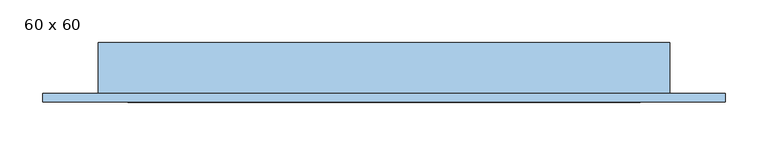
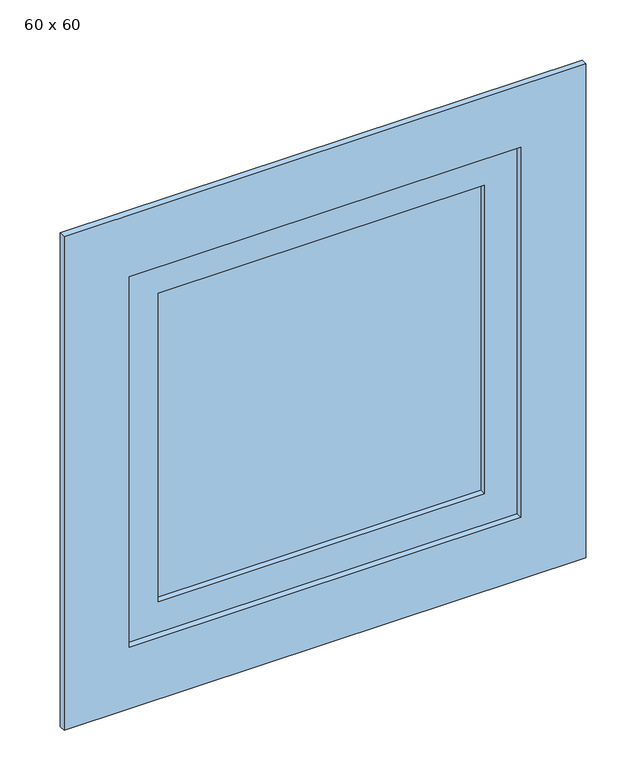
"""IFC4 building model written with IfcOpenShell, lengths in millimetres: window geometry, JANELA COM ESQUADRIA FIXA - 1 FOLHA : 60 x 60."""

from ifc_helpers import new_model, si_unit, frame, origin, place, context, project, spatial, polyline, outline, extrude, source, transform, mapped, element, save


def window_60_x_60_208c0b0b(model_context):
    return source(origin(), model_context, "Body", "SweptSolid", [
        extrude(outline(polyline([(-120.5964491, -60.3758395), (379.4035509, -60.3758395), (379.4035509, -66.3758395), (-120.5964491, -66.3758395), (-120.5964491, -60.3758395)])), frame((0.0, 0.0, 1650.0), z_axis=(0.0, 0.0, 1.0), x_axis=(1.0, 0.0, 0.0)), (0.0, 0.0, 1.0), 500.0),
        extrude(outline(polyline([(2200.0, -170.5964491), (1600.0, -170.5964491), (1600.0, 429.4035509), (2200.0, 429.4035509), (2200.0, -170.5964491)]), holes=[polyline([(2150.0, -120.5964491), (2150.0, 379.4035509), (1650.0, 379.4035509), (1650.0, -120.5964491), (2150.0, -120.5964491)])]), frame((0.0, -75.8758395, 0.0), z_axis=(0.0, 1.0, 0.0), x_axis=(0.0, 0.0, 1.0)), (0.0, 0.0, 1.0), 25.0),
        extrude(outline(polyline([(1500.0, -270.5964491), (1500.0, 529.4035509), (2300.0, 529.4035509), (2300.0, -270.5964491), (1500.0, -270.5964491)]), holes=[polyline([(2200.0, -170.5964491), (2200.0, 429.4035509), (1600.0, 429.4035509), (1600.0, -170.5964491), (2200.0, -170.5964491)])]), frame((0.0, -85.8758395, 0.0), z_axis=(0.0, 1.0, 0.0), x_axis=(0.0, 0.0, 1.0)), (0.0, 0.0, 1.0), 10.0),
        extrude(outline(polyline([(-205.5964491, -15.8758395), (-170.5964491, -15.8758395), (-170.5964491, -75.8758395), (-205.5964491, -75.8758395), (-205.5964491, -15.8758395)])), frame((0.0, 0.0, 1600.0), z_axis=(0.0, 0.0, 1.0), x_axis=(1.0, 0.0, 0.0)), (0.0, 0.0, 1.0), 600.0),
        extrude(outline(polyline([(429.4035509, -15.8758395), (464.4035509, -15.8758395), (464.4035509, -75.8758395), (429.4035509, -75.8758395), (429.4035509, -15.8758395)])), frame((0.0, 0.0, 1600.0), z_axis=(0.0, 0.0, 1.0), x_axis=(1.0, 0.0, 0.0)), (0.0, 0.0, 1.0), 600.0),
        extrude(outline(polyline([(-205.5964491, -15.8758395), (464.4035509, -15.8758395), (464.4035509, -75.8758395), (-205.5964491, -75.8758395), (-205.5964491, -15.8758395)])), frame((0.0, 0.0, 1565.0), z_axis=(0.0, 0.0, 1.0), x_axis=(1.0, 0.0, 0.0)), (0.0, 0.0, 1.0), 35.0),
        extrude(outline(polyline([(-205.5964491, -15.8758395), (464.4035509, -15.8758395), (464.4035509, -75.8758395), (-205.5964491, -75.8758395), (-205.5964491, -15.8758395)])), frame((0.0, 0.0, 2200.0), z_axis=(0.0, 0.0, 1.0), x_axis=(1.0, 0.0, 0.0)), (0.0, 0.0, 1.0), 35.0),
    ])


if __name__ == "__main__":
    model = new_model("IFC4")
    model_context = context("Model", 3, world=origin())
    ifc_project = project(units=[si_unit("LENGTHUNIT", "METRE", prefix="MILLI")], contexts=[model_context])
    site = spatial("IfcSite", under=ifc_project)
    building = spatial("IfcBuilding", under=site)
    placement = place(None, origin())
    window_60_x_60_shape = window_60_x_60_208c0b0b(model_context)
    element("IfcWindow", 1, ObjectType="JANELA COM ESQUADRIA FIXA - 1 FOLHA : 60 x 60", at=placement, inside=building, context=model_context, shape_type="MappedRepresentation", body=[
        mapped(window_60_x_60_shape, transform((0.0, 0.0, 0.0), x_axis=(1.0, 0.0, 0.0), y_axis=(0.0, 1.0, 0.0), z_axis=(0.0, 0.0, 1.0))),
    ])
    save(model, "model.ifc")
